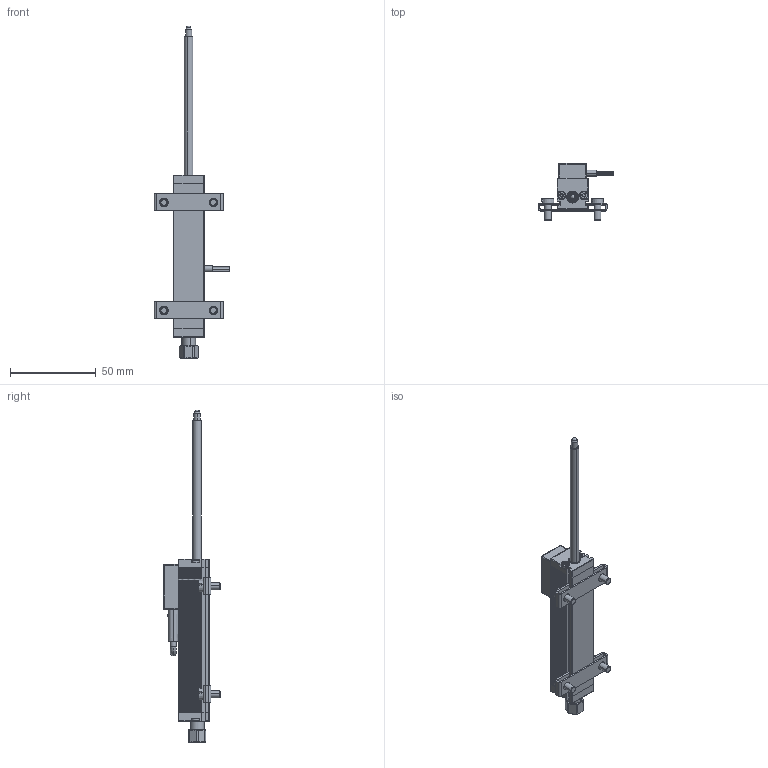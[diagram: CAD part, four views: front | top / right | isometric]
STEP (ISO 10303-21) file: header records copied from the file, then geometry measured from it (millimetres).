
FILE_DESCRIPTION (( 'STEP AP214' ), '1' );
FILE_NAME ('TR_050.STEP', '2008-11-05T12:12:13', ( 'novotechnik' ), ( 'novotechnik' ), 'SwSTEP 2.0', 'SolidWorks 2008', '' );
FILE_SCHEMA (( 'AUTOMOTIVE_DESIGN' ));
Length unit declared in the file: millimetre
Products named in the file (4): T-Serie_Klammer_Standard; TR_TRS_050_-_Schubstange_Standard; TR_050_-_Gehaeuse_Standard; TR_050
Assembly tree (4 placements, depth 2):
  TR_050
    T-Serie_Klammer_Standard  x2
    TR_TRS_050_-_Schubstange_Standard
    TR_050_-_Gehaeuse_Standard
Bounding box: 44.13 x 33.19 x 193.4 mm (x, y, z)
Volume: 39202.8 mm3; surface area: 22398.5 mm2
Topology: 21 solids, 21 shells, 941 faces, 2282 edges, 1405 vertices
Faces by surface type: cylinder 476, plane 258, bspline 115, cone 90, torus 2
Entity records: 37234 total; most frequent: CARTESIAN_POINT 6862, DIRECTION 4522, ORIENTED_EDGE 4216, EDGE_CURVE 2108, AXIS2_PLACEMENT_3D 1777, VERTEX_POINT 1301, CIRCLE 1010, LINE 968
